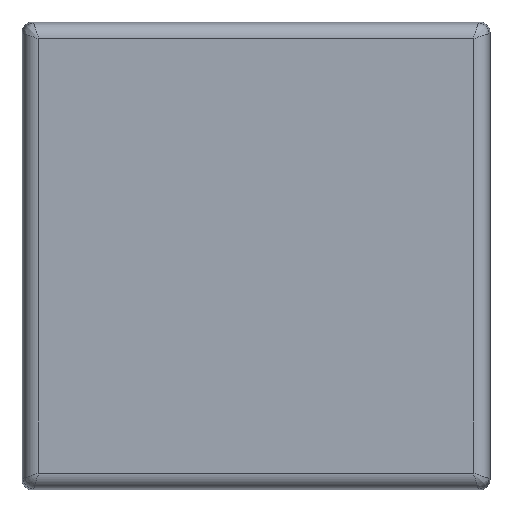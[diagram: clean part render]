
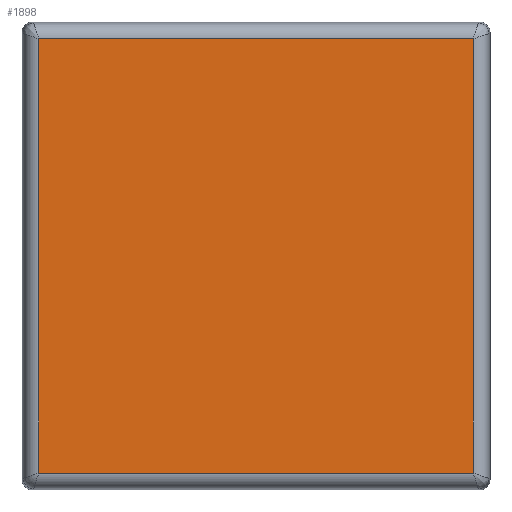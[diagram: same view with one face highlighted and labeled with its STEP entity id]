
A CAD part, top view. The second image highlights one B-rep face of the part: STEP entity #1898.
In plain terms, the highlighted planar face has unit normal (0, 0, 1).
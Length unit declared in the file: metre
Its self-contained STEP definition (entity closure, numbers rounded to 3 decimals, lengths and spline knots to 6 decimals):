
#138=FACE_OUTER_BOUND('',#259,.T.);
#259=EDGE_LOOP('',(#1485,#1486,#1487,#1488));
#496=LINE('',#3153,#680);
#497=LINE('',#3155,#681);
#498=LINE('',#3157,#682);
#499=LINE('',#3158,#683);
#680=VECTOR('',#2507,0.041754);
#681=VECTOR('',#2508,0.041754);
#682=VECTOR('',#2509,0.041754);
#683=VECTOR('',#2510,0.041754);
#945=VERTEX_POINT('',#3151);
#946=VERTEX_POINT('',#3152);
#947=VERTEX_POINT('',#3154);
#948=VERTEX_POINT('',#3156);
#1163=EDGE_CURVE('',#945,#946,#496,.F.);
#1164=EDGE_CURVE('',#946,#947,#497,.F.);
#1165=EDGE_CURVE('',#947,#948,#498,.F.);
#1166=EDGE_CURVE('',#948,#945,#499,.F.);
#1485=ORIENTED_EDGE('',*,*,#1163,.T.);
#1486=ORIENTED_EDGE('',*,*,#1164,.T.);
#1487=ORIENTED_EDGE('',*,*,#1165,.T.);
#1488=ORIENTED_EDGE('',*,*,#1166,.T.);
#1812=PLANE('',#2069);
#1898=ADVANCED_FACE('',(#138),#1812,.T.);
#2069=AXIS2_PLACEMENT_3D('',#3150,#2505,#2506);
#2505=DIRECTION('center_axis',(0.,0.,1.));
#2506=DIRECTION('ref_axis',(1.,0.,0.));
#2507=DIRECTION('',(1.,0.,0.));
#2508=DIRECTION('',(0.,1.,0.));
#2509=DIRECTION('',(-1.,0.,0.));
#2510=DIRECTION('',(0.,-1.,0.));
#3150=CARTESIAN_POINT('Origin',(0.,0.,0.005));
#3151=CARTESIAN_POINT('',(0.020877,0.020877,0.005));
#3152=CARTESIAN_POINT('',(-0.020877,0.020877,0.005));
#3153=CARTESIAN_POINT('',(-0.020877,0.020877,0.005));
#3154=CARTESIAN_POINT('',(-0.020877,-0.020877,0.005));
#3155=CARTESIAN_POINT('',(-0.020877,-0.020877,0.005));
#3156=CARTESIAN_POINT('',(0.020877,-0.020877,0.005));
#3157=CARTESIAN_POINT('',(0.020877,-0.020877,0.005));
#3158=CARTESIAN_POINT('',(0.020877,0.020877,0.005));
